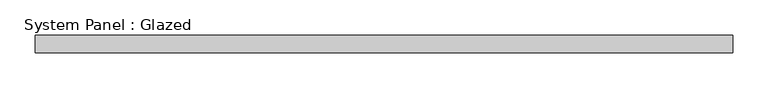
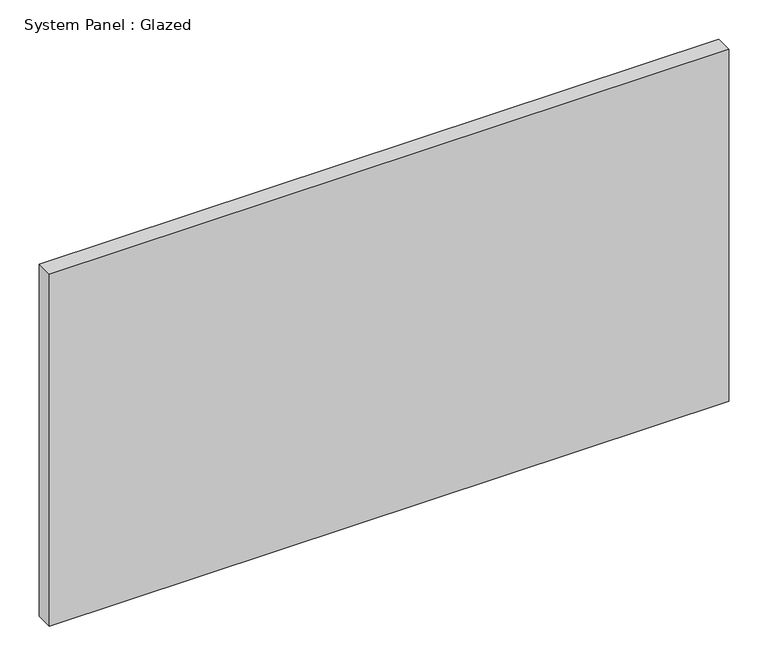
"""IFC4 building model written with IfcOpenShell, lengths in millimetres: plate geometry, System Panel : Glazed."""

from ifc_helpers import new_model, si_unit, origin, origin_with_axes, place, context, project, spatial, polyline, outline, extrude, source, transform, mapped, element, save


def system_panel_glazed_11174a6d(model_context):
    return source(origin(), model_context, "Body", "SweptSolid", [
        extrude(outline(polyline([(498.475, 19.05), (-498.475, 19.05), (-498.475, 44.45), (498.475, 44.45), (498.475, 19.05)])), origin_with_axes(), (0.0, 0.0, 1.0), 546.1),
    ])


if __name__ == "__main__":
    model = new_model("IFC4")
    model_context = context("Model", 3, world=origin())
    ifc_project = project(units=[si_unit("LENGTHUNIT", "METRE", prefix="MILLI")], contexts=[model_context])
    site = spatial("IfcSite", under=ifc_project)
    building = spatial("IfcBuilding", under=site)
    placement = place(None, origin())
    system_panel_glazed_shape = system_panel_glazed_11174a6d(model_context)
    element("IfcPlate", 1, ObjectType="System Panel : Glazed", at=placement, inside=building, context=model_context, shape_type="MappedRepresentation", body=[
        mapped(system_panel_glazed_shape, transform((0.0, 0.0, 0.0), x_axis=(1.0, 0.0, 0.0), y_axis=(0.0, 1.0, 0.0), z_axis=(0.0, 0.0, 1.0))),
    ])
    save(model, "model.ifc")
